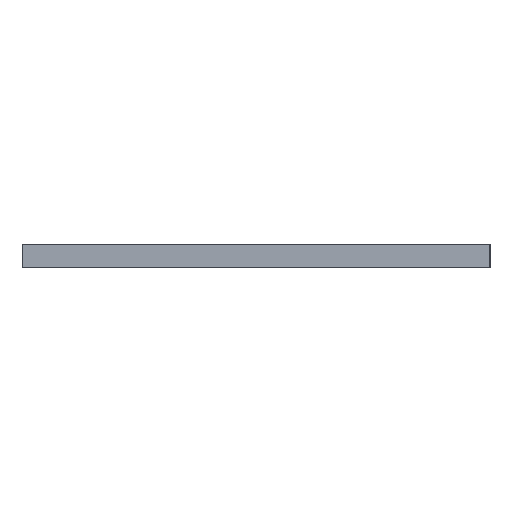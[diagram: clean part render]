
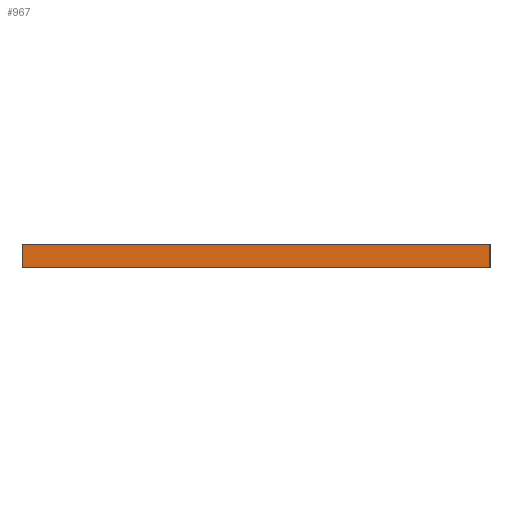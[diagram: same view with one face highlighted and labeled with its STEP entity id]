
A CAD part, left-side view. The second image highlights one B-rep face of the part: STEP entity #967.
In plain terms, the highlighted planar face has unit normal (-1, 0, 0).
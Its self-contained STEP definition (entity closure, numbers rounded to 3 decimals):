
#599 = AXIS2_PLACEMENT_3D ( 'NONE', #2890, #2887, #2893 ) ;
#690 = EDGE_CURVE ( 'NONE', #4568, #4460, #1486, .T. ) ;
#967 = ADVANCED_FACE ( 'NONE', ( #1075 ), #2880, .F. ) ;
#1075 = FACE_OUTER_BOUND ( 'NONE', #3793, .T. ) ;
#1314 = VECTOR ( 'NONE', #5039, 1000. ) ;
#1317 = LINE ( 'NONE', #5038, #1352 ) ;
#1342 = LINE ( 'NONE', #5004, #1314 ) ;
#1352 = VECTOR ( 'NONE', #5057, 1000. ) ;
#1388 = LINE ( 'NONE', #5112, #1398 ) ;
#1398 = VECTOR ( 'NONE', #5079, 1000. ) ;
#1462 = VECTOR ( 'NONE', #5471, 1000. ) ;
#1486 = LINE ( 'NONE', #5470, #1462 ) ;
#2702 = EDGE_CURVE ( 'NONE', #4460, #4554, #1342, .T. ) ;
#2720 = EDGE_CURVE ( 'NONE', #4568, #4494, #1317, .T. ) ;
#2735 = EDGE_CURVE ( 'NONE', #4494, #4554, #1388, .T. ) ;
#2880 = PLANE ( 'NONE',  #599 ) ;
#2887 = DIRECTION ( 'NONE',  ( 1., 0., 0. ) ) ;
#2890 = CARTESIAN_POINT ( 'NONE',  ( -20., 20., 2. ) ) ;
#2893 = DIRECTION ( 'NONE',  ( 0., 1., 0. ) ) ;
#3793 = EDGE_LOOP ( 'NONE', ( #4333, #4409, #4363, #4343 ) ) ;
#4333 = ORIENTED_EDGE ( 'NONE', *, *, #2735, .T. ) ;
#4343 = ORIENTED_EDGE ( 'NONE', *, *, #2720, .T. ) ;
#4363 = ORIENTED_EDGE ( 'NONE', *, *, #690, .F. ) ;
#4409 = ORIENTED_EDGE ( 'NONE', *, *, #2702, .F. ) ;
#4460 = VERTEX_POINT ( 'NONE', #4761 ) ;
#4494 = VERTEX_POINT ( 'NONE', #4787 ) ;
#4554 = VERTEX_POINT ( 'NONE', #4629 ) ;
#4568 = VERTEX_POINT ( 'NONE', #4595 ) ;
#4595 = CARTESIAN_POINT ( 'NONE',  ( -20., 20., 2. ) ) ;
#4629 = CARTESIAN_POINT ( 'NONE',  ( -20., -20., 0. ) ) ;
#4761 = CARTESIAN_POINT ( 'NONE',  ( -20., -20., 2. ) ) ;
#4787 = CARTESIAN_POINT ( 'NONE',  ( -20., 20., 0. ) ) ;
#5004 = CARTESIAN_POINT ( 'NONE',  ( -20., -20., 2. ) ) ;
#5038 = CARTESIAN_POINT ( 'NONE',  ( -20., 20., 2. ) ) ;
#5039 = DIRECTION ( 'NONE',  ( 0., 0., -1. ) ) ;
#5057 = DIRECTION ( 'NONE',  ( 0., 0., -1. ) ) ;
#5079 = DIRECTION ( 'NONE',  ( 0., -1., 0. ) ) ;
#5112 = CARTESIAN_POINT ( 'NONE',  ( -20., 20., 0. ) ) ;
#5470 = CARTESIAN_POINT ( 'NONE',  ( -20., 20., 2. ) ) ;
#5471 = DIRECTION ( 'NONE',  ( 0., -1., 0. ) ) ;
